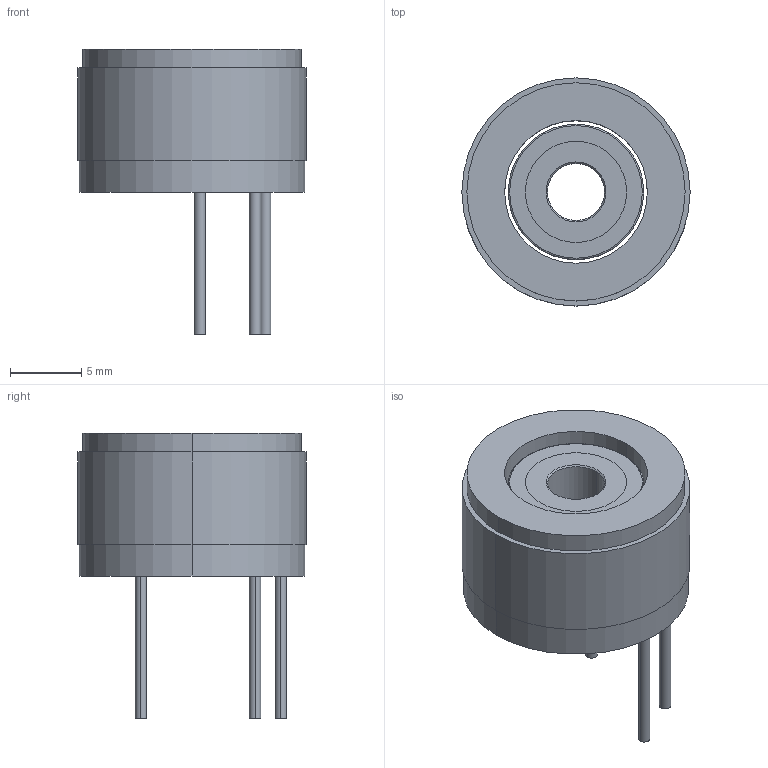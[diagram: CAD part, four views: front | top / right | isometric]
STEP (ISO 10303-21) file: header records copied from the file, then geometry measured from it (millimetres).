
FILE_DESCRIPTION (( 'STEP AP203' ), '1' );
FILE_NAME ('U1610萇儂耀倰.STEP', '2026-07-01T08:44:06', ( 'Windows User' ), ( 'P R C' ), 'SwSTEP 2.0', 'SolidWorks 2023', '' );
FILE_SCHEMA (( 'CONFIG_CONTROL_DESIGN' ));
Length unit declared in the file: millimetre
Products named in the file (1): U1610电机模型
Bounding box: 16 x 16 x 20 mm (x, y, z)
Volume: 1644.1 mm3; surface area: 1898.3 mm2
Topology: 3 solids, 3 shells, 41 faces, 82 edges, 52 vertices
Faces by surface type: cylinder 22, plane 11, torus 4, cone 4
Entity records: 1173 total; most frequent: DIRECTION 222, CARTESIAN_POINT 176, ORIENTED_EDGE 164, AXIS2_PLACEMENT_3D 98, EDGE_CURVE 82, CIRCLE 56, VERTEX_POINT 52, EDGE_LOOP 52
